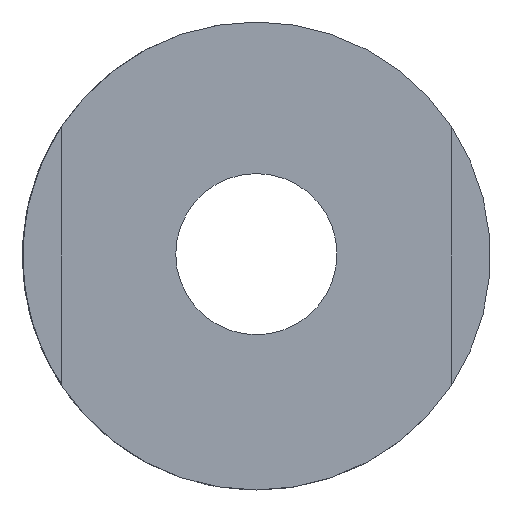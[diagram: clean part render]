
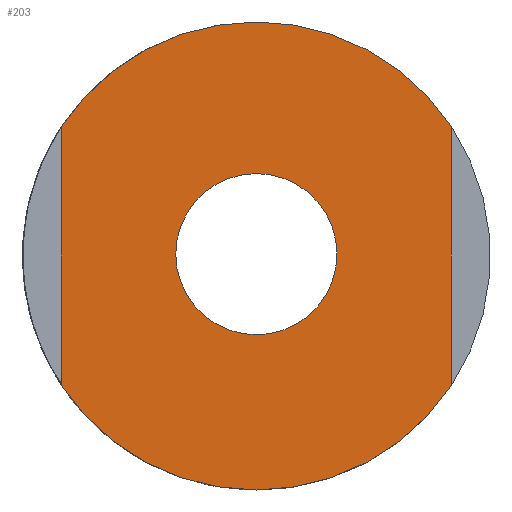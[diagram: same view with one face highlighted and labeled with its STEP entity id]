
A CAD part, left-side view. The second image highlights one B-rep face of the part: STEP entity #203.
In plain terms, the highlighted planar face has unit normal (-1, 0, 0).
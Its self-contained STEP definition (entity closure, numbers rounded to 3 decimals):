
#23=CIRCLE('',#218,6.);
#24=CIRCLE('',#219,6.);
#25=CIRCLE('',#220,2.067);
#31=ORIENTED_EDGE('',*,*,#63,.F.);
#32=ORIENTED_EDGE('',*,*,#64,.T.);
#33=ORIENTED_EDGE('',*,*,#65,.T.);
#34=ORIENTED_EDGE('',*,*,#66,.T.);
#35=ORIENTED_EDGE('',*,*,#67,.F.);
#63=EDGE_CURVE('',#79,#80,#90,.T.);
#64=EDGE_CURVE('',#79,#81,#23,.T.);
#65=EDGE_CURVE('',#81,#82,#91,.T.);
#66=EDGE_CURVE('',#82,#80,#24,.T.);
#67=EDGE_CURVE('',#83,#83,#25,.T.);
#79=VERTEX_POINT('',#281);
#80=VERTEX_POINT('',#282);
#81=VERTEX_POINT('',#284);
#82=VERTEX_POINT('',#286);
#83=VERTEX_POINT('',#289);
#90=LINE('',#280,#98);
#91=LINE('',#285,#99);
#98=VECTOR('',#238,1000.);
#99=VECTOR('',#241,1000.);
#106=EDGE_LOOP('',(#31,#32,#33,#34));
#107=EDGE_LOOP('',(#35));
#119=FACE_BOUND('',#106,.T.);
#120=FACE_BOUND('',#107,.T.);
#132=PLANE('',#217);
#203=ADVANCED_FACE('',(#119,#120),#132,.T.);
#217=AXIS2_PLACEMENT_3D('',#279,#236,#237);
#218=AXIS2_PLACEMENT_3D('',#283,#239,#240);
#219=AXIS2_PLACEMENT_3D('',#287,#242,#243);
#220=AXIS2_PLACEMENT_3D('',#288,#244,#245);
#236=DIRECTION('',(-1.,0.,0.));
#237=DIRECTION('',(0.,0.,1.));
#238=DIRECTION('',(0.,0.,-1.));
#239=DIRECTION('',(-1.,0.,0.));
#240=DIRECTION('',(0.,0.,1.));
#241=DIRECTION('',(0.,0.,-1.));
#242=DIRECTION('',(-1.,0.,0.));
#243=DIRECTION('',(0.,0.,1.));
#244=DIRECTION('',(-1.,0.,0.));
#245=DIRECTION('',(0.,0.,1.));
#279=CARTESIAN_POINT('',(-15.,0.,-3.));
#280=CARTESIAN_POINT('',(-15.,-5.057,0.317));
#281=CARTESIAN_POINT('',(-15.,-5.057,0.317));
#282=CARTESIAN_POINT('',(-15.,-5.057,-6.317));
#283=CARTESIAN_POINT('',(-15.,-0.057,-3.));
#284=CARTESIAN_POINT('',(-15.,4.943,0.317));
#285=CARTESIAN_POINT('',(-15.,4.943,0.317));
#286=CARTESIAN_POINT('',(-15.,4.943,-6.317));
#287=CARTESIAN_POINT('',(-15.,-0.057,-3.));
#288=CARTESIAN_POINT('',(-15.,-0.057,-2.953));
#289=CARTESIAN_POINT('',(-15.,-0.057,-0.886));
